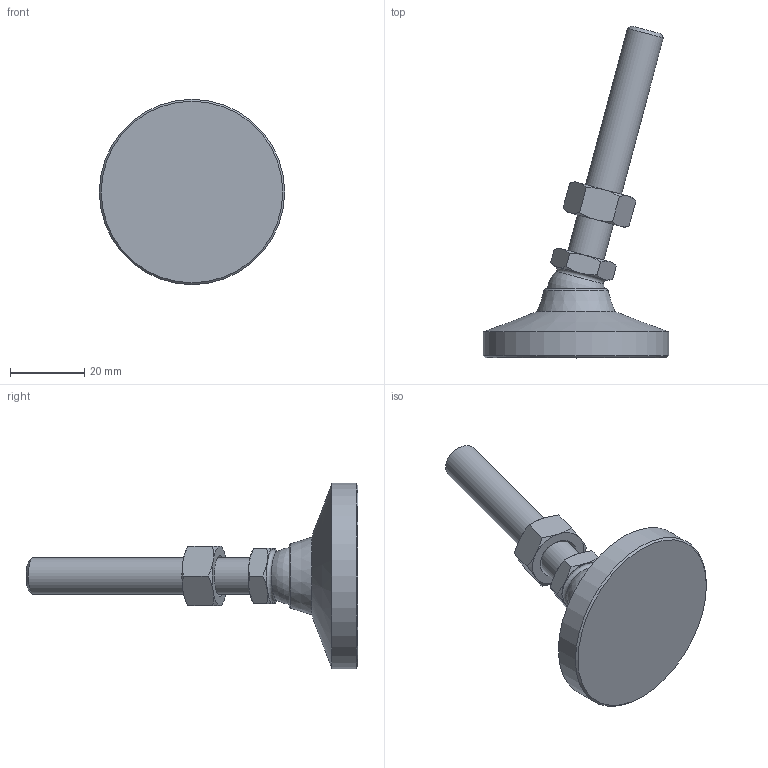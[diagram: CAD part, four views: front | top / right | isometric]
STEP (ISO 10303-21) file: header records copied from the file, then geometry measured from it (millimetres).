
FILE_DESCRIPTION( ( 'STEP AP214' ), ' ' );
FILE_NAME( 'O:/ganter_2015/teil_2/2_5/gn343_2/gn343_2_os/Levelling foot with threaded stud GN 343.2-50-M10-63-OS-(-15).stp', '2015-10-26T09:07:48', ( '' ), ( '' ), ' ', 'PARTsolutions', ' ' );
FILE_SCHEMA( ( 'AUTOMOTIVE_DESIGN { 1 0 10303 214 1 1 1 1 }' ) );
Length unit declared in the file: millimetre
Products named in the file (4): Levelling foot with threaded stud GN 343.2-50-M10-63-OS-(-15); _Levelling foot with threaded stud GN 343.2-50-M10-63-OS-(-15)_foot; _Levelling foot with threaded stud GN 343.2-50-M10-63-OS-(-15)_screw; _Stainless Steel-Levelling feet GN 343.2-50-M10-63-OS-(-15)_nut
Assembly tree (3 placements, depth 2):
  Levelling foot with threaded stud GN 343.2-50-M10-63-OS-(-15)
    _Levelling foot with threaded stud GN 343.2-50-M10-63-OS-(-15)_foot
    _Levelling foot with threaded stud GN 343.2-50-M10-63-OS-(-15)_screw
    _Stainless Steel-Levelling feet GN 343.2-50-M10-63-OS-(-15)_nut
Bounding box: 50 x 89.57 x 50 mm (x, y, z)
Volume: 29165 mm3; surface area: 9621.8 mm2
Topology: 3 solids, 3 shells, 56 faces, 117 edges, 68 vertices
Faces by surface type: cone 30, plane 19, cylinder 3, torus 2, sphere 2
Full cylindrical faces by diameter (mm): 8.376 x1, 10 x1, 50 x1
Entity records: 2066 total; most frequent: CARTESIAN_POINT 498, DIRECTION 212, ORIENTED_EDGE 200, AXIS2_PLACEMENT_3D 100, EDGE_CURVE 100, EDGE_LOOP 72, VERTEX_POINT 66, FACE_OUTER_BOUND 61
